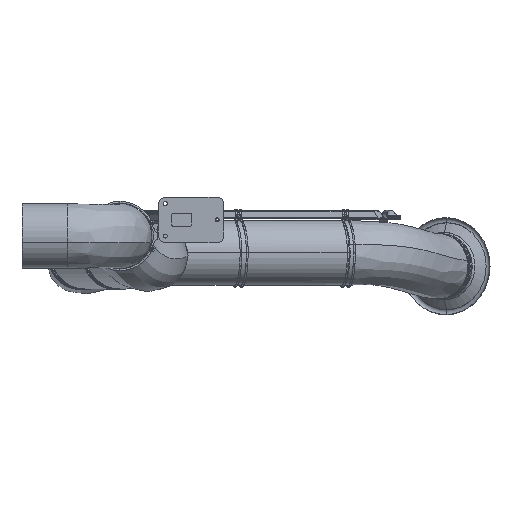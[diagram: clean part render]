
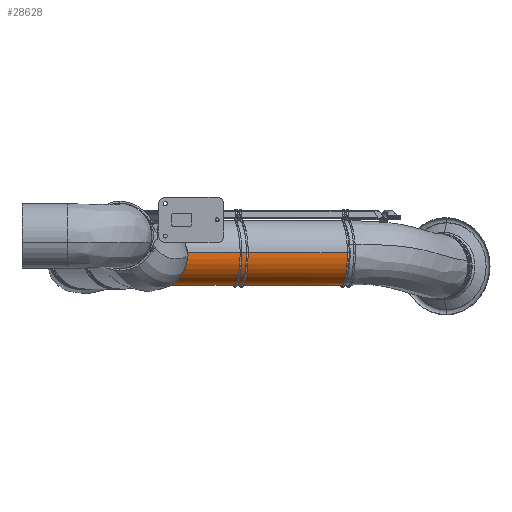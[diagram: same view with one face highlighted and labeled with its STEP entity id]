
A CAD part, left-side view. The second image highlights one B-rep face of the part: STEP entity #28628.
In plain terms, the highlighted free-form (B-spline) face has degree [3, 3] with [7, 6] control points.
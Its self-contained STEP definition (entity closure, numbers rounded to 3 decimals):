
#27415=CARTESIAN_POINT('',(1471.299,-468.151,
-101.223));
#27416=CARTESIAN_POINT('',(1451.946,-395.922,
-101.278));
#27417=CARTESIAN_POINT('',(1413.238,-251.462,
-101.389));
#27418=CARTESIAN_POINT('',(1355.176,-34.773,
-101.556));
#27419=CARTESIAN_POINT('',(1316.468,109.687,
-101.667));
#27420=CARTESIAN_POINT('',(1297.114,181.917,
-101.723));
#27425=CARTESIAN_POINT('',(1374.707,-494.033,-101.5));
#27426=DIRECTION('',(0.259,-0.966,0.001));
#27427=DIRECTION('',(-0.966,-0.259,-0.003));
#27428=AXIS2_PLACEMENT_3D('',#27425,#27426,#27427);
#27433=CARTESIAN_POINT('',(1374.707,-494.033,-101.5));
#27434=DIRECTION('',(0.259,-0.966,0.001));
#27435=DIRECTION('',(0.934,0.25,-0.254));
#27436=AXIS2_PLACEMENT_3D('',#27433,#27434,#27435);
#27457=CARTESIAN_POINT('',(1278.115,-519.915,
-101.777));
#27458=CARTESIAN_POINT('',(1258.761,-447.686,
-101.833));
#27459=CARTESIAN_POINT('',(1220.053,-303.226,
-101.944));
#27460=CARTESIAN_POINT('',(1161.992,-86.537,
-102.111));
#27461=CARTESIAN_POINT('',(1123.284,57.923,
-102.222));
#27462=CARTESIAN_POINT('',(1103.93,130.153,
-102.277));
#27969=CARTESIAN_POINT('',(1200.522,156.035,-102.));
#27970=DIRECTION('',(-0.259,0.966,-0.001));
#27971=DIRECTION('',(0.966,0.259,0.003));
#27972=AXIS2_PLACEMENT_3D('',#27969,#27970,#27971);
#28533=CARTESIAN_POINT('',(1297.114,181.917,
-101.723));
#28534=CARTESIAN_POINT('',(1103.93,130.153,
-102.277));
#28535=VERTEX_POINT('',#28533);
#28536=VERTEX_POINT('',#28534);
#28559=VERTEX_POINT('',#27415);
#28560=VERTEX_POINT('',#27457);
#28569=CARTESIAN_POINT('',(1468.138,-469.018,
-126.896));
#28570=VERTEX_POINT('',#28569);
#28573=CARTESIAN_POINT('',(1474.574,-481.204,
-94.934));
#28574=CARTESIAN_POINT('',(1473.413,-476.87,
-94.938));
#28575=CARTESIAN_POINT('',(1414.19,-255.847,
-95.108));
#28576=CARTESIAN_POINT('',(1353.806,-30.49,
-95.281));
#28577=CARTESIAN_POINT('',(1294.583,190.533,
-95.451));
#28578=CARTESIAN_POINT('',(1293.422,194.867,
-95.454));
#28579=CARTESIAN_POINT('',(1478.483,-480.204,
-156.342));
#28580=CARTESIAN_POINT('',(1477.322,-475.87,
-156.345));
#28581=CARTESIAN_POINT('',(1418.099,-254.847,
-156.515));
#28582=CARTESIAN_POINT('',(1357.715,-29.49,
-156.688));
#28583=CARTESIAN_POINT('',(1298.492,191.533,
-156.858));
#28584=CARTESIAN_POINT('',(1297.331,195.867,
-156.862));
#28585=CARTESIAN_POINT('',(1437.921,-491.107,
-201.319));
#28586=CARTESIAN_POINT('',(1436.759,-486.773,
-201.322));
#28587=CARTESIAN_POINT('',(1377.536,-265.75,
-201.492));
#28588=CARTESIAN_POINT('',(1317.152,-40.393,
-201.666));
#28589=CARTESIAN_POINT('',(1257.929,180.63,
-201.836));
#28590=CARTESIAN_POINT('',(1256.768,184.964,
-201.839));
#28591=CARTESIAN_POINT('',(1378.478,-507.035,
-201.49));
#28592=CARTESIAN_POINT('',(1377.317,-502.701,
-201.493));
#28593=CARTESIAN_POINT('',(1318.094,-281.678,
-201.663));
#28594=CARTESIAN_POINT('',(1257.71,-56.321,
-201.836));
#28595=CARTESIAN_POINT('',(1198.487,164.702,
-202.006));
#28596=CARTESIAN_POINT('',(1197.325,169.036,
-202.01));
#28597=CARTESIAN_POINT('',(1319.035,-522.962,
-201.66));
#28598=CARTESIAN_POINT('',(1317.874,-518.629,
-201.664));
#28599=CARTESIAN_POINT('',(1258.651,-297.606,
-201.834));
#28600=CARTESIAN_POINT('',(1198.267,-72.249,
-202.007));
#28601=CARTESIAN_POINT('',(1139.044,148.775,
-202.177));
#28602=CARTESIAN_POINT('',(1137.883,153.108,
-202.18));
#28603=CARTESIAN_POINT('',(1278.215,-533.866,
-156.917));
#28604=CARTESIAN_POINT('',(1277.054,-529.532,
-156.92));
#28605=CARTESIAN_POINT('',(1217.831,-308.509,
-157.09));
#28606=CARTESIAN_POINT('',(1157.447,-83.152,
-157.263));
#28607=CARTESIAN_POINT('',(1098.224,137.871,
-157.433));
#28608=CARTESIAN_POINT('',(1097.063,142.205,
-157.437));
#28609=CARTESIAN_POINT('',(1281.771,-532.866,
-95.488));
#28610=CARTESIAN_POINT('',(1280.61,-528.532,
-95.491));
#28611=CARTESIAN_POINT('',(1221.387,-307.509,
-95.661));
#28612=CARTESIAN_POINT('',(1161.003,-82.152,
-95.834));
#28613=CARTESIAN_POINT('',(1101.78,138.871,
-96.004));
#28614=CARTESIAN_POINT('',(1100.619,143.205,
-96.008));
#28615=(BOUNDED_SURFACE()B_SPLINE_SURFACE(3,3,((#28573,#28574,#28575,#28576,
#28577,#28578),(#28579,#28580,#28581,#28582,#28583,#28584),(#28585,#28586,
#28587,#28588,#28589,#28590),(#28591,#28592,#28593,#28594,#28595,#28596),
(#28597,#28598,#28599,#28600,#28601,#28602),(#28603,#28604,#28605,#28606,#28607,
#28608),(#28609,#28610,#28611,#28612,#28613,#28614)),.UNSPECIFIED.,.F.,.F.,.F.)B_SPLINE_SURFACE_WITH_KNOTS((4,3,4),(4,1,1,4),(0.,1.,2.),
(-0.02,0.,1.,1.02),.UNSPECIFIED.)GEOMETRIC_REPRESENTATION_ITEM()RATIONAL_B_SPLINE_SURFACE(((1.187,1.187,
1.187,1.187,1.187,1.187),(
0.938,0.938,0.938,0.938,
0.938,0.938),(0.938,0.938,
0.938,0.938,0.938,0.938),(
1.187,1.187,1.187,1.187,
1.187,1.187),(0.938,0.938,
0.938,0.938,0.938,0.938),(
0.938,0.938,0.938,0.938,
0.938,0.938),(1.187,1.187,
1.187,1.187,1.187,1.187)))REPRESENTATION_ITEM('')SURFACE());
#28617=ORIENTED_EDGE('',*,*,#28616,.T.);
#28619=ORIENTED_EDGE('',*,*,#28618,.T.);
#28621=ORIENTED_EDGE('',*,*,#28620,.F.);
#28623=ORIENTED_EDGE('',*,*,#28622,.T.);
#28625=ORIENTED_EDGE('',*,*,#28624,.T.);
#28626=EDGE_LOOP('',(#28617,#28619,#28621,#28623,#28625));
#28627=FACE_OUTER_BOUND('',#28626,.F.);
#27421=B_SPLINE_CURVE_WITH_KNOTS('',3,(#27415,#27416,#27417,#27418,#27419,
#27420),.UNSPECIFIED.,.F.,.F.,(4,1,1,4),(0.,0.333,
0.667,1.),.UNSPECIFIED.);
#27429=CIRCLE('',#27428,100.);
#27437=CIRCLE('',#27436,100.);
#27463=B_SPLINE_CURVE_WITH_KNOTS('',3,(#27457,#27458,#27459,#27460,#27461,
#27462),.UNSPECIFIED.,.F.,.F.,(4,1,1,4),(0.,0.333,
0.667,1.),.UNSPECIFIED.);
#27973=CIRCLE('',#27972,100.);
#28616=EDGE_CURVE('',#28559,#28535,#27421,.T.);
#28618=EDGE_CURVE('',#28535,#28536,#27973,.T.);
#28620=EDGE_CURVE('',#28560,#28536,#27463,.T.);
#28622=EDGE_CURVE('',#28560,#28570,#27429,.T.);
#28624=EDGE_CURVE('',#28570,#28559,#27437,.T.);
#28628=ADVANCED_FACE('',(#28627),#28615,.T.);
